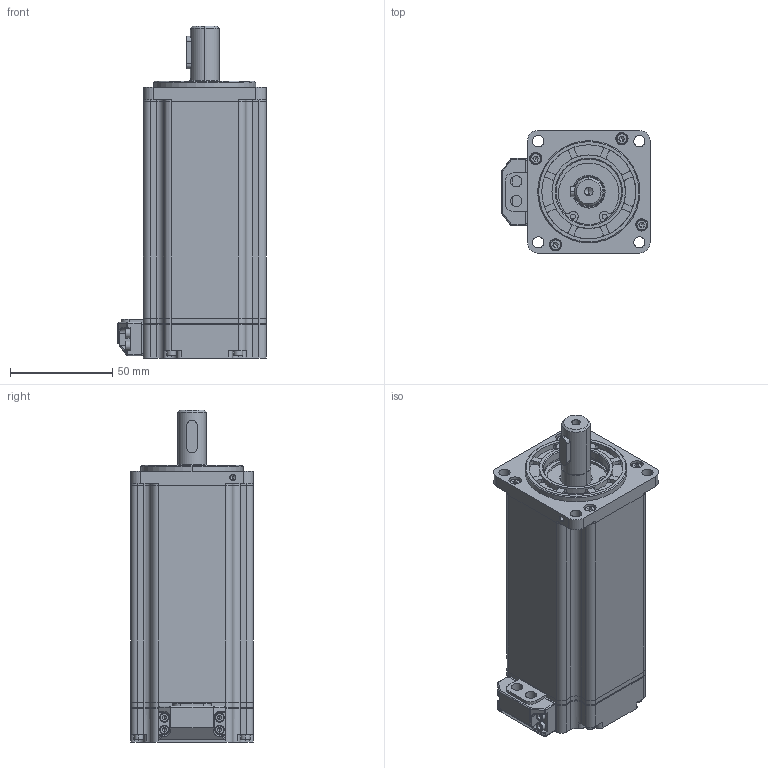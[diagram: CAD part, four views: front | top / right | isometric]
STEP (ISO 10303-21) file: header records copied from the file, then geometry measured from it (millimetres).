
FILE_DESCRIPTION (( 'STEP AP203' ), '1' );
FILE_NAME ('淕儂蚾饜.STEP', '2021-08-24T02:19:14', ( 'kinavo-3851' ), ( '' ), 'SwSTEP 2.0', 'SolidWorks 2018', '' );
FILE_SCHEMA (( 'CONFIG_CONTROL_DESIGN' ));
Length unit declared in the file: millimetre
Products named in the file (1): 淕儂蚾饜
Bounding box: 72.5 x 60 x 162.5 mm (x, y, z)
Volume: 235163.7 mm3; surface area: 152111.5 mm2
Topology: 26 solids, 26 shells, 1356 faces, 3681 edges, 2315 vertices
Faces by surface type: cylinder 583, plane 482, cone 145, torus 90, sphere 46, bspline 10
Entity records: 44075 total; most frequent: CARTESIAN_POINT 9860, DIRECTION 7496, ORIENTED_EDGE 6992, EDGE_CURVE 3496, AXIS2_PLACEMENT_3D 2941, VERTEX_POINT 2251, VECTOR 1614, LINE 1614
